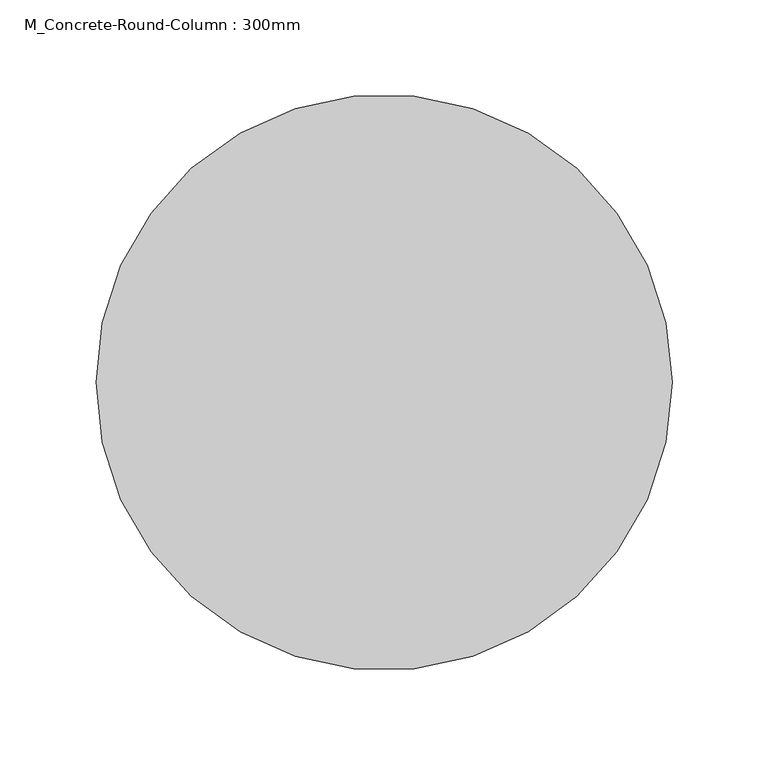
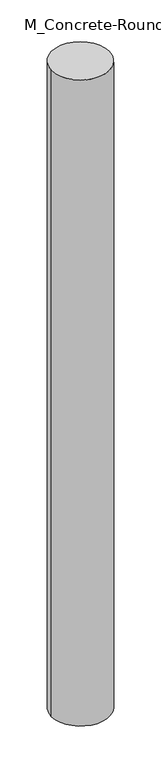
"""IFC4 building model written with IfcOpenShell, lengths in millimetres: column geometry, M_Concrete-Round-Column : 300mm."""

import ifcopenshell
import ifcopenshell.guid

model = None  # the IFC model being written
_history = None  # IfcOwnerHistory: only IFC2X3 demands one
_inside = {}  # id of a spatial element -> (the spatial element, [elements in it])
_under = {}  # id of a project, library or spatial element -> (it, [spatial elements below it])
_declared = {}  # id of a project -> (the project, [libraries it declares])
_typed = {}  # id of a type object -> (the type object, [elements of that type])
_made_of = {}  # id of a material, layer set ... -> (it, [elements and type objects made of it])


def new_model(schema):
    """Start an empty IFC model of exactly this schema.

    Asked for "IFC4X3", IfcOpenShell would pick the latest addendum, in which some entities
    have other attributes; the version numbers below select the first issue.
    IFC2X3 requires an IfcOwnerHistory on every rooted entity: one is made here for all.
    """
    global model, _history
    if schema == "IFC4X3":
        model = ifcopenshell.file(schema_version=(4, 3, 0, 0))
    else:
        model = ifcopenshell.file(schema=schema)
    _inside.clear()
    _under.clear()
    _declared.clear()
    _typed.clear()
    _made_of.clear()
    _history = None
    if model.schema == "IFC2X3":
        org = make("IfcOrganization", Name="unknown")
        user = make(
            "IfcPersonAndOrganization",
            ThePerson=make("IfcPerson", FamilyName="unknown"),
            TheOrganization=org,
        )
        app = make(
            "IfcApplication",
            ApplicationDeveloper=org,
            Version="unknown",
            ApplicationFullName="unknown",
            ApplicationIdentifier="unknown",
        )
        _history = make(
            "IfcOwnerHistory",
            OwningUser=user,
            OwningApplication=app,
            ChangeAction="ADDED",
            CreationDate=0,
        )
    return model


def make(cls, **values):
    """One entity of the class cls with the attributes given. An attribute that is None is left unset."""
    return model.create_entity(
        cls, **{name: value for name, value in values.items() if value is not None}
    )


def rooted(cls, **values):
    """An entity with a GlobalId (a new one), such as an element, a storey or a relation."""
    return make(cls, GlobalId=ifcopenshell.guid.new(), OwnerHistory=_history, **values)


def si_unit(unit_type, name, prefix=None):
    """IfcSIUnit, for example si_unit("LENGTHUNIT", "METRE", prefix="MILLI")."""
    return make("IfcSIUnit", UnitType=unit_type, Prefix=prefix, Name=name)


def assignment(units):
    """IfcUnitAssignment: the units of a project."""
    return None if units is None else make("IfcUnitAssignment", Units=units)


def point(xyz):
    """IfcCartesianPoint."""
    return None if xyz is None else make("IfcCartesianPoint", Coordinates=xyz)


def direction(xyz):
    """IfcDirection."""
    return None if xyz is None else make("IfcDirection", DirectionRatios=xyz)


def frame(location, z_axis=None, x_axis=None):
    """IfcAxis2Placement3D, a coordinate frame: its origin and axes. An axis left out is left unset."""
    return make(
        "IfcAxis2Placement3D",
        Location=point(location),
        Axis=direction(z_axis),
        RefDirection=direction(x_axis),
    )


def frame_2d(location, x_axis=None):
    """IfcAxis2Placement2D, a coordinate frame in the plane: its origin and x axis."""
    return make(
        "IfcAxis2Placement2D", Location=point(location), RefDirection=direction(x_axis)
    )


def origin():
    """The frame at (0, 0, 0) with its axes left unset."""
    return frame((0.0, 0.0, 0.0))


def origin_2d():
    """The frame at (0, 0) in the plane with its x axis left unset."""
    return frame_2d((0.0, 0.0))


def place(relative_to, where):
    """IfcLocalPlacement: puts the frame where relative to a parent placement (None: the world)."""
    return make(
        "IfcLocalPlacement", PlacementRelTo=relative_to, RelativePlacement=where
    )


def context(
    kind, dimensions, precision=None, world=None, true_north=None, identifier=None
):
    """IfcGeometricRepresentationContext, for example the 3D "Model" context."""
    return make(
        "IfcGeometricRepresentationContext",
        ContextIdentifier=identifier,
        ContextType=kind,
        CoordinateSpaceDimension=dimensions,
        Precision=precision,
        WorldCoordinateSystem=world,
        TrueNorth=true_north,
    )


def project(units=None, contexts=None):
    """IfcProject with its units and contexts."""
    return rooted(
        "IfcProject",
        Name="project",
        RepresentationContexts=contexts,
        UnitsInContext=assignment(units),
    )


def spatial(cls, under=None, at=None, **own):
    """A site, building, storey or space (cls), placed at a placement, below another one or the project."""
    s = rooted(cls, ObjectPlacement=at, **own)
    if under is not None:
        _under.setdefault(under.id(), (under, []))[1].append(s)
    return s


def circle_curve(where, radius):
    """IfcCircle in the frame where."""
    return make("IfcCircle", Position=where, Radius=radius)


def trimmed(basis, trim1, trim2, sense, master):
    """IfcTrimmedCurve: the piece of a basis curve between two trims."""
    return make(
        "IfcTrimmedCurve",
        BasisCurve=basis,
        Trim1=trim1,
        Trim2=trim2,
        SenseAgreement=sense,
        MasterRepresentation=master,
    )


def segment(curve, same_sense, transition):
    """IfcCompositeCurveSegment."""
    return make(
        "IfcCompositeCurveSegment",
        Transition=transition,
        SameSense=same_sense,
        ParentCurve=curve,
    )


def composite_curve(segments, self_intersect=None):
    """IfcCompositeCurve: segments joined end to end."""
    return make("IfcCompositeCurve", Segments=segments, SelfIntersect=self_intersect)


def outline(outer, holes=None, kind="AREA"):
    """IfcArbitraryClosedProfileDef: a profile drawn as a closed curve; with holes, ...WithVoids."""
    if holes is None:
        return make("IfcArbitraryClosedProfileDef", ProfileType=kind, OuterCurve=outer)
    return make(
        "IfcArbitraryProfileDefWithVoids",
        ProfileType=kind,
        OuterCurve=outer,
        InnerCurves=holes,
    )


def extrude(swept, where, along, depth):
    """IfcExtrudedAreaSolid: the profile swept, set in the frame where, extruded along a direction by depth."""
    return make(
        "IfcExtrudedAreaSolid",
        SweptArea=swept,
        Position=where,
        ExtrudedDirection=direction(along),
        Depth=depth,
    )


def shape(context_of_items, identifier, shape_type, items):
    """IfcShapeRepresentation: the items that make up one representation, for example the "Body"."""
    return make(
        "IfcShapeRepresentation",
        ContextOfItems=context_of_items,
        RepresentationIdentifier=identifier,
        RepresentationType=shape_type,
        Items=items,
    )


def source(mapping_origin, context_of_items, identifier, shape_type, items):
    """IfcRepresentationMap: a shape defined once, which mapped items show again and again."""
    return make(
        "IfcRepresentationMap",
        MappingOrigin=mapping_origin,
        MappedRepresentation=shape(context_of_items, identifier, shape_type, items),
    )


def transform(
    local_origin,
    x_axis=None,
    y_axis=None,
    z_axis=None,
    scale=None,
    scale2=None,
    scale3=None,
    uniform=True,
):
    """IfcCartesianTransformationOperator3D, or its non-uniform kind. x_axis, y_axis, z_axis: its Axis1, 2, 3."""
    if uniform:
        return make(
            "IfcCartesianTransformationOperator3D",
            Axis1=direction(x_axis),
            Axis2=direction(y_axis),
            LocalOrigin=point(local_origin),
            Scale=scale,
            Axis3=direction(z_axis),
        )
    return make(
        "IfcCartesianTransformationOperator3DnonUniform",
        Axis1=direction(x_axis),
        Axis2=direction(y_axis),
        LocalOrigin=point(local_origin),
        Scale=scale,
        Axis3=direction(z_axis),
        Scale2=scale2,
        Scale3=scale3,
    )


def mapped(mapping_source, mapping_target):
    """IfcMappedItem: shows the shape of a source again, moved by a transform."""
    return make(
        "IfcMappedItem", MappingSource=mapping_source, MappingTarget=mapping_target
    )


def made_of(thing, what):
    """Note that an element or type object is made of a material, layer set ...; save() writes the relation."""
    if what is not None:
        _made_of.setdefault(what.id(), (what, []))[1].append(thing)
    return thing


def element(
    cls,
    number,
    at=None,
    inside=None,
    cuts=None,
    type_object=None,
    material=None,
    context=None,
    identifier="Body",
    shape_type=None,
    held_by="IfcProductDefinitionShape",
    body=None,
    shapes=None,
    **own,
):
    """One element of the class cls, such as IfcWall. Its Tag is "e" and its number.

    at: its placement. inside: the storey or other place that contains it. cuts: it is an
    opening in that element (IfcRelVoidsElement). A single representation is given by context,
    identifier, shape_type and body (its items); several are given by shapes. held_by: the class
    of the entity that holds the representations. save() writes the other relations.
    """
    e = rooted(cls, Tag="e%d" % number, ObjectPlacement=at, **own)
    if body is not None:
        shapes = [shape(context, identifier, shape_type, body)]
    if shapes is not None:
        e.Representation = make(held_by, Representations=shapes)
    if inside is not None:
        _inside.setdefault(inside.id(), (inside, []))[1].append(e)
    if cuts is not None:
        rooted(
            "IfcRelVoidsElement", RelatingBuildingElement=cuts, RelatedOpeningElement=e
        )
    if type_object is not None:
        _typed.setdefault(type_object.id(), (type_object, []))[1].append(e)
    return made_of(e, material)


def aggregate(whole, parts):
    """IfcRelAggregates: a whole, such as a stair, and the parts it consists of."""
    return rooted("IfcRelAggregates", RelatingObject=whole, RelatedObjects=parts)


def save(model, path):
    """Write the relations noted so far, then the file.

    IfcRelAggregates (storeys below a building ...), IfcRelContainedInSpatialStructure (elements
    in a storey), IfcRelDefinesByType, IfcRelAssociatesMaterial and IfcRelDeclares: one each for
    every whole, place, type object, material and project.
    """
    for whole, parts in _under.values():
        aggregate(whole, parts)
    for where, things in _inside.values():
        rooted(
            "IfcRelContainedInSpatialStructure",
            RelatedElements=things,
            RelatingStructure=where,
        )
    for kind, things in _typed.values():
        rooted("IfcRelDefinesByType", RelatedObjects=things, RelatingType=kind)
    for what, things in _made_of.values():
        rooted("IfcRelAssociatesMaterial", RelatedObjects=things, RelatingMaterial=what)
    for by, libraries in _declared.values():
        rooted("IfcRelDeclares", RelatingContext=by, RelatedDefinitions=libraries)
    model.write(path)


def m_concrete_round_column_300mm_86e73f63(model_context):
    return source(origin(), model_context, "Body", "SweptSolid", [
        extrude(outline(composite_curve([segment(trimmed(circle_curve(origin_2d(), 150.0), [point((-150.0, 0.0))], [point((150.0, 0.0))], False, "CARTESIAN"), True, "CONTINUOUS"), segment(trimmed(circle_curve(origin_2d(), 150.0), [point((150.0, 0.0))], [point((-150.0, 0.0))], False, "CARTESIAN"), True, "CONTINUOUS")], self_intersect=False)), frame((0.0, 0.0, 4000.0), z_axis=(0.0, 0.0, 1.0), x_axis=(1.0, 0.0, 0.0)), (0.0, 0.0, 1.0), 3550.0),
    ])


if __name__ == "__main__":
    model = new_model("IFC4")
    model_context = context("Model", 3, world=origin())
    ifc_project = project(units=[si_unit("LENGTHUNIT", "METRE", prefix="MILLI")], contexts=[model_context])
    site = spatial("IfcSite", under=ifc_project)
    building = spatial("IfcBuilding", under=site)
    placement = place(None, origin())
    m_concrete_round_column_300mm_shape = m_concrete_round_column_300mm_86e73f63(model_context)
    element("IfcColumn", 1, ObjectType="M_Concrete-Round-Column : 300mm", at=placement, inside=building, context=model_context, shape_type="MappedRepresentation", body=[
        mapped(m_concrete_round_column_300mm_shape, transform((0.0, 0.0, 0.0), x_axis=(1.0, 0.0, 0.0), y_axis=(0.0, 1.0, 0.0), z_axis=(0.0, 0.0, 1.0))),
    ])
    save(model, "model.ifc")
